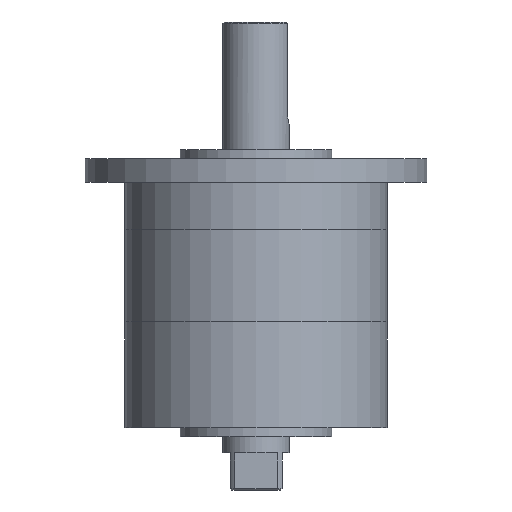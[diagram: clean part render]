
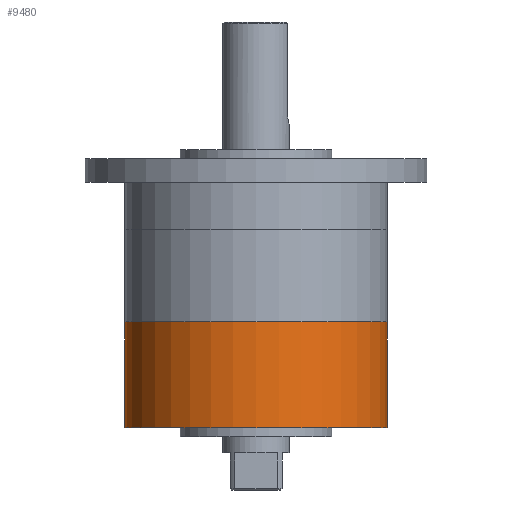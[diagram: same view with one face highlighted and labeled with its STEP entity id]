
A CAD part, front view. The second image highlights one B-rep face of the part: STEP entity #9480.
In plain terms, the highlighted cylindrical face has radius 88.5 mm (diameter 177 mm), a partial arc.
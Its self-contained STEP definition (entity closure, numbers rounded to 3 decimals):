
#15 = EDGE_CURVE ( 'NONE', #16556, #153, #3104, .T. ) ;
#153 = VERTEX_POINT ( 'NONE', #4391 ) ;
#294 = ORIENTED_EDGE ( 'NONE', *, *, #4705, .F. ) ;
#1207 = DIRECTION ( 'NONE',  ( 0., 0., 1. ) ) ;
#1414 = LINE ( 'NONE', #8066, #16307 ) ;
#2148 = CARTESIAN_POINT ( 'NONE',  ( 0., 0., -71.16 ) ) ;
#3104 = LINE ( 'NONE', #6731, #10519 ) ;
#3106 = ORIENTED_EDGE ( 'NONE', *, *, #11248, .F. ) ;
#3232 = CARTESIAN_POINT ( 'NONE',  ( 0., 0., 0. ) ) ;
#3433 = EDGE_CURVE ( 'NONE', #10050, #16556, #6446, .T. ) ;
#3529 = CIRCLE ( 'NONE', #4822, 88.5 ) ;
#4391 = CARTESIAN_POINT ( 'NONE',  ( 88.5, 0., 0. ) ) ;
#4531 = DIRECTION ( 'NONE',  ( 0., 0., 1. ) ) ;
#4705 = EDGE_CURVE ( 'NONE', #10050, #14153, #1414, .T. ) ;
#4822 = AXIS2_PLACEMENT_3D ( 'NONE', #3232, #4531, #7089 ) ;
#5107 = DIRECTION ( 'NONE',  ( 1., 0., 0. ) ) ;
#5968 = DIRECTION ( 'NONE',  ( 1., 0., 0. ) ) ;
#6159 = CARTESIAN_POINT ( 'NONE',  ( -88.5, 0., 0. ) ) ;
#6195 = ORIENTED_EDGE ( 'NONE', *, *, #15, .T. ) ;
#6446 = CIRCLE ( 'NONE', #6687, 88.5 ) ;
#6687 = AXIS2_PLACEMENT_3D ( 'NONE', #12753, #1207, #5107 ) ;
#6731 = CARTESIAN_POINT ( 'NONE',  ( 88.5, 0., -71.16 ) ) ;
#7089 = DIRECTION ( 'NONE',  ( 1., 0., 0. ) ) ;
#7974 = DIRECTION ( 'NONE',  ( 0., 0., 1. ) ) ;
#8066 = CARTESIAN_POINT ( 'NONE',  ( -88.5, 0., -71.16 ) ) ;
#8967 = EDGE_LOOP ( 'NONE', ( #294, #14044, #6195, #3106 ) ) ;
#9480 = ADVANCED_FACE ( 'NONE', ( #12975 ), #14172, .T. ) ;
#10050 = VERTEX_POINT ( 'NONE', #13732 ) ;
#10519 = VECTOR ( 'NONE', #15739, 1000. ) ;
#11248 = EDGE_CURVE ( 'NONE', #14153, #153, #3529, .T. ) ;
#12442 = AXIS2_PLACEMENT_3D ( 'NONE', #2148, #13656, #5968 ) ;
#12690 = CARTESIAN_POINT ( 'NONE',  ( 88.5, 0., -71.16 ) ) ;
#12753 = CARTESIAN_POINT ( 'NONE',  ( 0., 0., -71.16 ) ) ;
#12975 = FACE_OUTER_BOUND ( 'NONE', #8967, .T. ) ;
#13656 = DIRECTION ( 'NONE',  ( 0., 0., 1. ) ) ;
#13732 = CARTESIAN_POINT ( 'NONE',  ( -88.5, 0., -71.16 ) ) ;
#14044 = ORIENTED_EDGE ( 'NONE', *, *, #3433, .T. ) ;
#14153 = VERTEX_POINT ( 'NONE', #6159 ) ;
#14172 = CYLINDRICAL_SURFACE ( 'NONE', #12442, 88.5 ) ;
#15739 = DIRECTION ( 'NONE',  ( 0., 0., 1. ) ) ;
#16307 = VECTOR ( 'NONE', #7974, 1000. ) ;
#16556 = VERTEX_POINT ( 'NONE', #12690 ) ;
